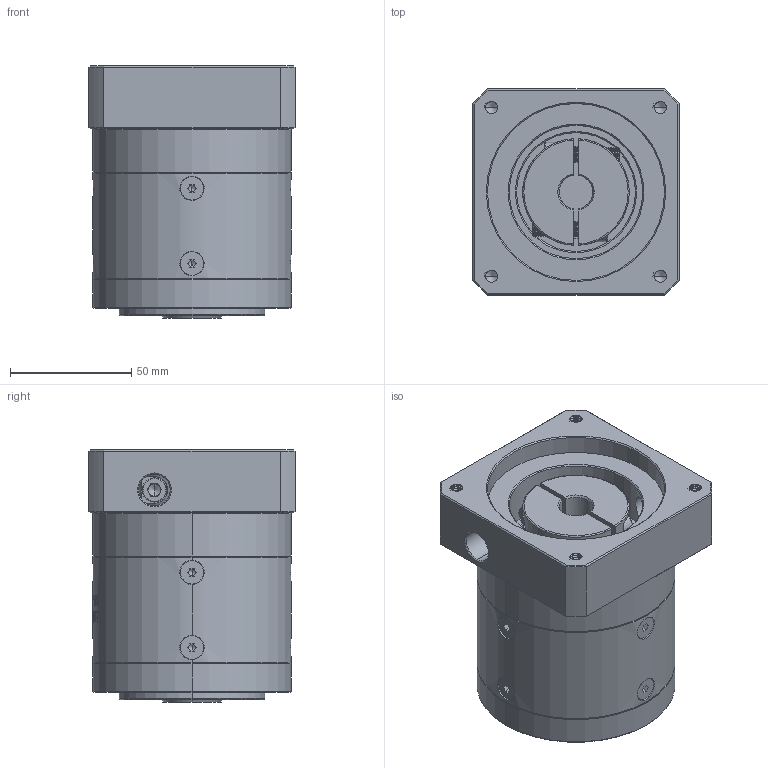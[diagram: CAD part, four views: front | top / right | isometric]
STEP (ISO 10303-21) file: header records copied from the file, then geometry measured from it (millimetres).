
FILE_DESCRIPTION (( 'STEP AP214' ), '1' );
FILE_NAME ('ZE080-K15-L1-P2-14-73-69.6X69.6-M6.step', '2023-08-25T09:43:39', ( '' ), ( '' ), 'SwSTEP 2.0', 'SolidWorks 2016', '' );
FILE_SCHEMA (( 'AUTOMOTIVE_DESIGN' ));
Length unit declared in the file: millimetre
Products named in the file (1): ZE080-K15-L1-P2-14-73-69.6X69.6-M6
Bounding box: 85 x 85 x 104 mm (x, y, z)
Volume: 500294.3 mm3; surface area: 83512.8 mm2
Topology: 13 solids, 13 shells, 2185 faces, 5739 edges, 3647 vertices
Faces by surface type: plane 1053, bspline 390, cylinder 380, cone 327, torus 35
Entity records: 116304 total; most frequent: CARTESIAN_POINT 43449, ORIENTED_EDGE 11406, DIRECTION 8416, EDGE_CURVE 5703, VERTEX_POINT 3647, LINE 3050, VECTOR 3050, AXIS2_PLACEMENT_3D 2683
